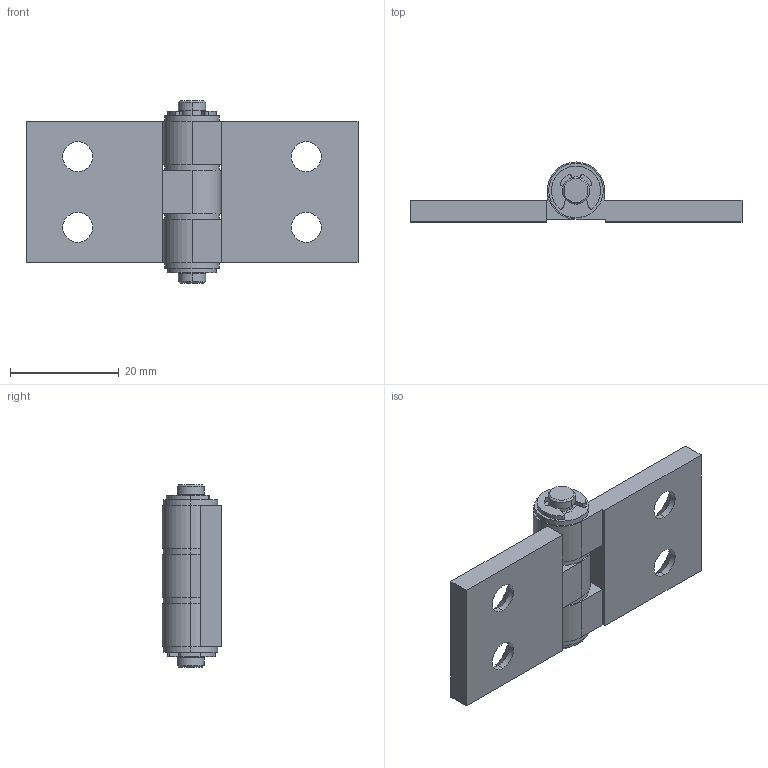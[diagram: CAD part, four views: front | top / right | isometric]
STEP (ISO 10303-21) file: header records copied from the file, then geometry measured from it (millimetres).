
FILE_DESCRIPTION (( 'STEP AP203' ), '1' );
FILE_NAME ('SK2-168-3.STEP', '2020-01-03T01:25:38', ( 'admin' ), ( 'Microsoft' ), 'SwSTEP 2.0', 'SolidWorks 2018', '' );
FILE_SCHEMA (( 'CONFIG_CONTROL_DESIGN' ));
Length unit declared in the file: millimetre
Products named in the file (6): e rings gb_GB_CONNECTING_PIECE_RINGS_HR 4; SK2-168-3; 2-168-3-F1; 2-168-3-F4; 2-168-3-F2; 2-168-3-F3
Assembly tree (9 placements, depth 2):
  SK2-168-3
    2-168-3-F1
    2-168-3-F2
    2-168-3-F3  x4
    2-168-3-F4
    e rings gb_GB_CONNECTING_PIECE_RINGS_HR 4  x2
Bounding box: 61 x 11 x 33.5 mm (x, y, z)
Volume: 7143.2 mm3; surface area: 6380.7 mm2
Topology: 9 solids, 9 shells, 142 faces, 348 edges, 228 vertices
Faces by surface type: cylinder 78, plane 52, cone 12
Entity records: 3778 total; most frequent: DIRECTION 582, CARTESIAN_POINT 518, ORIENTED_EDGE 492, EDGE_CURVE 246, AXIS2_PLACEMENT_3D 224, VERTEX_POINT 160, VECTOR 134, LINE 134
